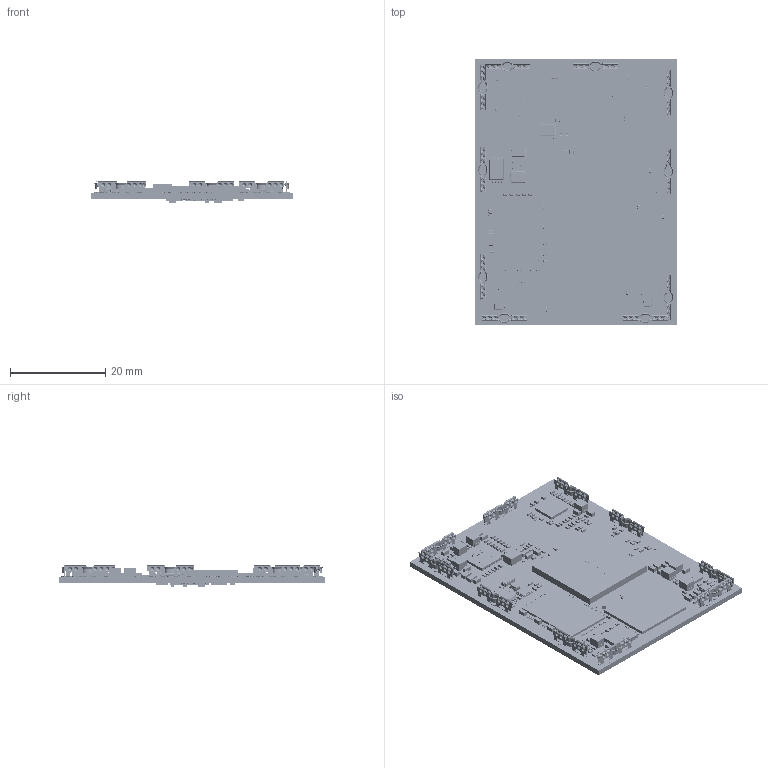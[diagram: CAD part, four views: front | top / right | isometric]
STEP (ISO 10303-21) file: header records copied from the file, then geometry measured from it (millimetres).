
FILE_DESCRIPTION(/* description */ ('PCB Design'),/* implementation_level */ '2;1');
FILE_NAME(/* name */ 'CMT527_V3',/* time_stamp */ '2026-08-12T18:17:10+08:00',/* author */ (''),/* organization */ (''),/* preprocessor_version */ 'ST-DEVELOPER v16',/* originating_system */ 'allegro_17.2S053',/* authorisation */ '');
FILE_SCHEMA (('AUTOMOTIVE_DESIGN { 1 0 10303 214 3 1 1 }'));
Products named in the file (308): CMT527_V3; BOARD_OUTLINE; COMPONENTS; DIP212_56X42_5MM; DFN8_5X6; CLIP-EMI; C0805; SOT563; SOD_523; IND_322512; IND_252012; BGA153_13RX11R5X0R9_2L; R0201; C0201; TSSOP8_3R10X3R10X1R10; SOT_323; X2B150_320H75_SMD; R0603; R0402; LP160_200H100; LED0603; C0603; C0402; X4B250_320H120_SMD; QFN20P40B300_300H75; QFN41P40B500_500H85; QFN53P40B600_600H75; BGA200P65_80B1000_1500H90; BGA664P50B1700_1700H180; User Library-DFN8-5X6; Pad005; Pad007; Pad008; Pad003; Pad004; Pad; Pad001; Pad002; Pad006; Pad009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
Assembly tree (632 placements, depth 7):
  CMT527_V3
    BOARD_OUTLINE
    COMPONENTS
      DIP212_56X42_5MM
      DFN8_5X6
        User Library-DFN8-5X6
          Pad001
          Pad002
          Pad
          Pad009
          Pad003
          Pad005
          Pad004
          Pad006
          Pad007
          Pad008
      CLIP-EMI  x10
        Laird-BMI-C-002
      C0805  x2
        User Library-C0805-2
      SOT563
        4E357751-62F2-4C9E-89FE-D179AAC9DFAF
      SOD_523
        FBAD810E-5352-496B-9C7A-FD4D1803C7F8
      IND_322512
        User Library-3225
          Component1
          Component2
          Component3
      IND_252012  x7
        User Library-INDM2520X190N
      BGA153_13RX11R5X0R9_2L
        58673B8F-7CB6-4A58-80C6-4C79EC9FD135
      R0201  x5
        677F34B6-DF4C-4A28-84A3-75D1813A5E2A
      C0201  x83
        User Library-User Library-0201_Cap
      TSSOP8_3R10X3R10X1R10
        4E4B9721-5512-4EAC-BC09-40BE9565364F
      SOT_323  x2
        PTSP0003JA-A
      X2B150_320H75_SMD
        0637D9F9-BE46-411F-B9CE-197B637E80A1
      R0603
        0
        CR1608-0603
      R0402  x86
        0
        CR1005-04021
      LP160_200H100
        User Library-INDM2520X190N
      LED0603
        User Library-LED_0603_R
          Pocket002
          Pad004
          Fillet
          Pocket001
          Pad
      C0603  x36
        0
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Bounding box: 42.59 x 56.09 x 4.67 mm (x, y, z)
Volume: 990.2 mm3; surface area: 14901.9 mm2
Topology: 1649 solids, 2005 shells, 51848 faces, 124909 edges, 78274 vertices
Faces by surface type: bspline 32527, plane 13699, cylinder 3387, sphere 2223, torus 12
Entity records: 198216 total; most frequent: CARTESIAN_POINT 56436, ORIENTED_EDGE 20371, DIRECTION 18176, EDGE_CURVE 10201, AXIS2_PLACEMENT_3D 7289, VERTEX_POINT 6947, EDGE_LOOP 5172, FACE_OUTER_BOUND 4642
